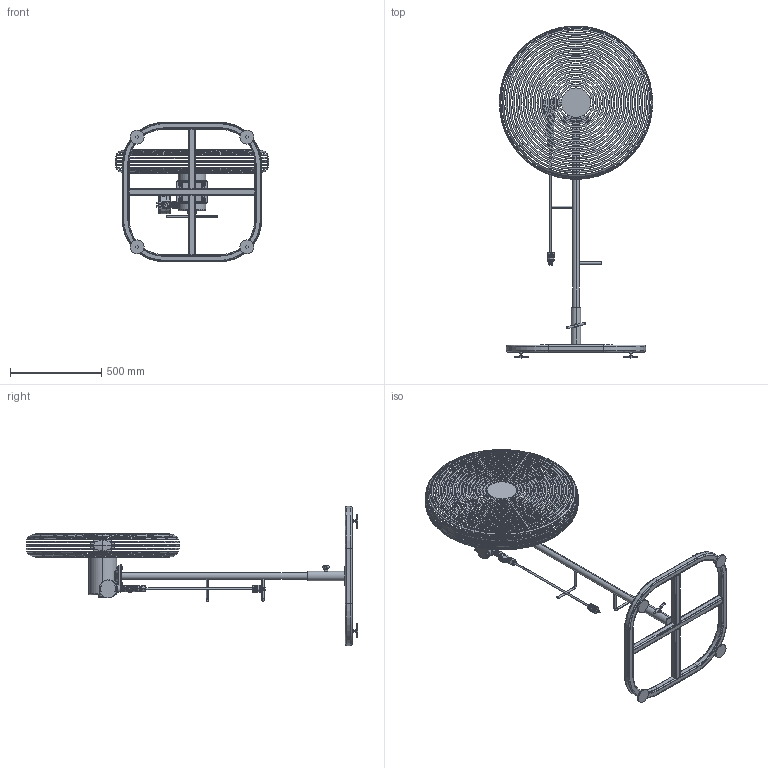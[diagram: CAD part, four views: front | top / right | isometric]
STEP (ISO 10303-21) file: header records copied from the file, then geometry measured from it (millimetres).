
FILE_DESCRIPTION (( 'STEP AP214' ), '1' );
FILE_NAME ('EPF-SM-30.STEP', '2016-07-13T15:17:24', ( '' ), ( '' ), 'SwSTEP 2.0', 'SolidWorks 2016', '' );
FILE_SCHEMA (( 'AUTOMOTIVE_DESIGN' ));
Length unit declared in the file: inch
Products named in the file (20): 1 inch OD nut_44705K336; 10 .75 green; EYS - .5 ends .75 side .25 angle; .75 x 1.5 Long Nipple_4830K192; 90 2 hole short; EPF-AC-30 Fan; foot; t-handle; pedestal-strut1; pedestal-base_Default_As Machined_; hex bolt_ai_HBOLT 0.3750-16x1.125x1-N; hex nut_ai_HNUT 0.3750-16-D-N; EPF-SM-30; flat washer type b regular_ai_Regular FW 0.375; 5-15; binding head screw_ai_CR-BHMS 0.125-40x0.25x0.25-N; binding head screw_ai_CR-BHMS 0.099-48x0.125x0.125-N; .4 diameter SOOW Cord; 4464K562_TYPE 304 STAINLESS STL THREADED PIPE FITTING_4464K562
Assembly tree (38 placements, depth 3):
  EPF-SM-30
    pedestal-base_Default_As Machined_
    pedestal-strut1
    t-handle
    foot  x4
    EPF-AC-30 Fan
    90 2 hole short
    .75 x 1.5 Long Nipple_4830K192  x2
    EYS - .5 ends .75 side .25 angle
    10 .75 green
    1 inch OD nut_44705K336
    4464K562_TYPE 304 STAINLESS STL THREADED PIPE FITTING_4464K562
    .4 diameter SOOW Cord
    5-15
      5-15
      binding head screw_ai_CR-BHMS 0.099-48x0.125x0.125-N  x2
      binding head screw_ai_CR-BHMS 0.125-40x0.25x0.25-N  x2
    flat washer type b regular_ai_Regular FW 0.375  x8
    hex nut_ai_HNUT 0.3750-16-D-N  x4
    hex bolt_ai_HBOLT 0.3750-16x1.125x1-N  x4
Bounding box: 838.2 x 1814.44 x 762 mm (x, y, z)
Volume: 9005012.3 mm3; surface area: 3560150.4 mm2
Topology: 60 solids, 61 shells, 3758 faces, 9826 edges, 6052 vertices
Faces by surface type: cylinder 1406, plane 1126, cone 718, torus 257, bspline 143, sphere 108
Entity records: 160415 total; most frequent: CARTESIAN_POINT 67881, ORIENTED_EDGE 17920, DIRECTION 17469, EDGE_CURVE 8960, AXIS2_PLACEMENT_3D 6696, VERTEX_POINT 5588, LINE 4077, VECTOR 4077
